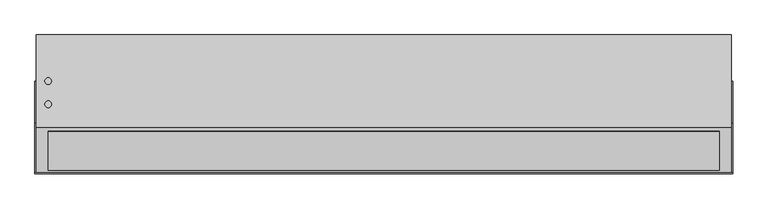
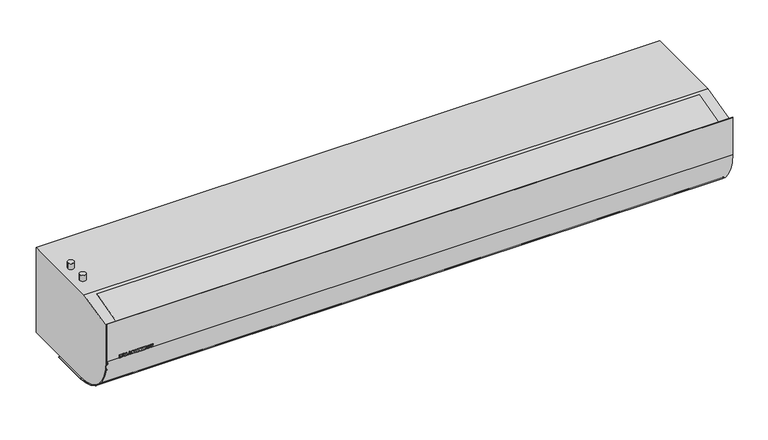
"""IFC4 building model written with IfcOpenShell, lengths in millimetres: proxy geometry, ИЗТТ_Завеса_Водяная : KVC-D20W50-11."""

from ifc_helpers import new_model, si_unit, point, frame, frame_2d, origin, place, context, project, spatial, polyline, circle_curve, trimmed, segment, composite_curve, outline, extrude, source, transform, mapped, element, save
from ifc_brep_helpers import plane_surface, cylinder_surface, advanced_brep


def mechanical_equipment_50f86838(model_context):
    return source(origin(), model_context, "Body", "SolidModel", [
        extrude(outline(polyline([(162.0, -1006.5196078), (152.0, -1006.5196078), (152.0, -1003.3823529), (153.7647059, -1003.3823529), (155.7745098, -1001.6115196), (152.0, -999.7794118), (152.0, -995.9313725), (158.2775735, -999.4056373), (162.0, -996.127451), (162.0, -1000.3982843), (158.2224265, -1003.3823529), (162.0, -1003.3823529), (162.0, -1006.5196078)])), frame((0.0, -417.0, 0.0), z_axis=(0.0, 1.0, 0.0), x_axis=(0.0, 0.0, 1.0)), (0.0, 0.0, 1.0), 1.0),
        extrude(outline(polyline([(153.5686275, -988.9338235), (152.0, -988.4803922), (152.0, -985.1470588), (162.0, -988.5202206), (162.0, -992.5582108), (152.0, -995.9313725), (152.0, -992.5980392), (153.5686275, -992.1660539), (153.5686275, -988.9338235)]), holes=[polyline([(155.9215686, -989.5281863), (155.9215686, -991.5165441), (159.4540441, -990.5392157), (155.9215686, -989.5281863)])]), frame((0.0, -417.0, 0.0), z_axis=(0.0, 1.0, 0.0), x_axis=(0.0, 0.0, 1.0)), (0.0, 0.0, 1.0), 1.0),
        extrude(outline(polyline([(162.0, -984.1666667), (152.0, -984.1666667), (152.0, -976.3235294), (154.3529412, -976.3235294), (154.3529412, -981.0294118), (162.0, -981.0294118), (162.0, -984.1666667)])), frame((0.0, -417.0, 0.0), z_axis=(0.0, 1.0, 0.0), x_axis=(0.0, 0.0, 1.0)), (0.0, 0.0, 1.0), 1.0),
        extrude(outline(polyline([(153.5686275, -968.9338235), (152.0, -968.4803922), (152.0, -965.1470588), (162.0, -968.5202206), (162.0, -972.5582108), (152.0, -975.9313725), (152.0, -972.5980392), (153.5686275, -972.1660539), (153.5686275, -968.9338235)]), holes=[polyline([(155.9215686, -969.5281863), (155.9215686, -971.5165441), (159.4540441, -970.5392157), (155.9215686, -969.5281863)])]), frame((0.0, -417.0, 0.0), z_axis=(0.0, 1.0, 0.0), x_axis=(0.0, 0.0, 1.0)), (0.0, 0.0, 1.0), 1.0),
        extrude(outline(polyline([(155.3394608, -964.754902), (152.8026961, -963.6488971), (151.8039216, -960.1378676), (152.2297794, -957.7420343), (153.4813113, -956.2637868), (155.28125, -955.7352941), (156.7870711, -956.1305147), (157.9129902, -957.3958333), (158.8106618, -960.2757353), (160.4313725, -960.4074755), (160.1050858, -959.6338848), (159.0588235, -959.2647059), (159.2395833, -956.127451), (161.4883578, -957.3054534), (162.1960784, -960.1807598), (161.8039216, -962.6011029), (160.7285539, -963.9231005), (159.276348, -964.3627451), (157.3492647, -963.4957108), (156.1237745, -960.6219363), (154.8186275, -958.872549), (154.0818015, -959.1865809), (153.7647059, -960.0796569), (154.3958333, -961.2775735), (155.5294118, -961.6176471), (155.3394608, -964.754902)])), frame((0.0, -417.0, 0.0), z_axis=(0.0, 1.0, 0.0), x_axis=(0.0, 0.0, 1.0)), (0.0, 0.0, 1.0), 1.0),
        extrude(outline(polyline([(162.0, -954.1666667), (152.0, -954.1666667), (152.0, -951.0294118), (156.1176471, -951.0294118), (156.1176471, -947.6960784), (152.0, -947.6960784), (152.0, -944.5588235), (162.0, -944.5588235), (162.0, -947.6960784), (158.4705882, -947.6960784), (158.4705882, -951.0294118), (162.0, -951.0294118), (162.0, -954.1666667)])), frame((0.0, -417.0, 0.0), z_axis=(0.0, 1.0, 0.0), x_axis=(0.0, 0.0, 1.0)), (0.0, 0.0, 1.0), 1.0),
        extrude(outline(polyline([(162.0, -942.5980392), (152.0, -942.5980392), (152.0, -939.6568627), (157.4901961, -939.6568627), (152.0, -935.9313725), (152.0, -932.9901961), (162.0, -932.9901961), (162.0, -935.9313725), (156.4730392, -935.9313725), (162.0, -939.6783088), (162.0, -942.5980392)])), frame((0.0, -417.0, 0.0), z_axis=(0.0, 1.0, 0.0), x_axis=(0.0, 0.0, 1.0)), (0.0, 0.0, 1.0), 1.0),
        extrude(outline(polyline([(-927.6960784, -417.0), (-930.8333333, -417.0), (-930.8333333, -416.0), (-927.6960784, -416.0), (-927.6960784, -417.0)])), frame((0.0, 0.0, 152.0), z_axis=(0.0, 0.0, 1.0), x_axis=(1.0, 0.0, 0.0)), (0.0, 0.0, 1.0), 10.0),
        extrude(outline(polyline([(162.0, -925.5392157), (152.0, -925.5392157), (152.0, -922.4019608), (153.7647059, -922.4019608), (155.7745098, -920.6311275), (152.0, -918.7990196), (152.0, -914.9509804), (158.2775735, -918.4252451), (162.0, -915.1470588), (162.0, -919.4178922), (158.2224265, -922.4019608), (162.0, -922.4019608), (162.0, -925.5392157)])), frame((0.0, -417.0, 0.0), z_axis=(0.0, 1.0, 0.0), x_axis=(0.0, 0.0, 1.0)), (0.0, 0.0, 1.0), 1.0),
        extrude(outline(polyline([(156.9938725, -914.3627451), (154.0603554, -913.671875), (152.346201, -911.8688725), (151.8039216, -909.0594363), (152.4304534, -906.2729779), (154.1859681, -904.5618873), (157.0765931, -903.9705882), (160.8495711, -905.3247549), (162.1960784, -909.185049), (160.8250613, -912.9947917), (156.9938725, -914.3627451)]), holes=[polyline([(156.9938725, -911.2254902), (159.1813725, -910.6678922), (159.8431373, -909.1911765), (159.1920956, -907.6685049), (157.1286765, -907.1078431), (154.8048407, -907.645527), (154.1568627, -909.1636029), (154.8186275, -910.6709559), (156.9938725, -911.2254902)])]), frame((0.0, -417.0, 0.0), z_axis=(0.0, 1.0, 0.0), x_axis=(0.0, 0.0, 1.0)), (0.0, 0.0, 1.0), 1.0),
        extrude(outline(polyline([(162.0, -903.1862745), (152.0, -899.4699755), (152.0, -896.1397059), (162.0, -892.4019608), (162.0, -895.7352941), (154.8033088, -897.7941176), (162.0, -899.8560049), (162.0, -903.1862745)])), frame((0.0, -417.0, 0.0), z_axis=(0.0, 1.0, 0.0), x_axis=(0.0, 0.0, 1.0)), (0.0, 0.0, 1.0), 1.0),
        extrude(outline(polyline([(-26.4444444, 10.0), (-26.4444444, 0.0), (-48.8888889, 10.0), (-48.8888889, 0.0), (-71.3333333, 10.0), (-71.3333333, 0.0), (-93.7777778, 10.0), (-93.7777778, 0.0), (-116.2222222, 10.0), (-116.2222222, 0.0), (-138.5833165, 10.5360909), (-4.0, 10.5360909), (-4.0, 0.0), (-26.4444444, 10.0)])), frame((-1007.5, 0.0, 0.0), z_axis=(1.0, 0.0, 0.0), x_axis=(0.0, 1.0, 0.0)), (0.0, 0.0, 1.0), 2015.0),
        advanced_brep(
        [(1043.5, -277.3333333, 304.0), (1043.5, -414.0, 269.0), (1043.5, -414.0, 152.0), (1043.5, -264.0, 2.0), (1043.5, 0.0, 2.0), (1043.5, 0.0, 304.0), (-1043.5, -277.3333333, 304.0), (-1043.5, 0.0, 304.0), (-1043.5, 0.0, 2.0), (-1043.5, -264.0, 2.0), (-1043.5, -414.0, 152.0), (-1043.5, -414.0, 269.0), (-997.5, -208.0, 304.0), (-1017.5, -208.0, 304.0), (-997.5, -138.6666667, 304.0), (-1017.5, -138.6666667, 304.0), (1007.5, -4.0, 2.0), (-1007.5, -4.0, 2.0), (-1007.5, -138.6666667, 2.0), (1007.5, -138.6666667, 2.0), (1007.5, -4.0, 10.0), (1007.5, -138.6666667, 10.0), (-1007.5, -138.6666667, 10.0), (-1007.5, -4.0, 10.0), (-1017.5, -208.0, 324.0), (-997.5, -208.0, 324.0), (-1017.5, -138.6666667, 324.0), (-997.5, -138.6666667, 324.0)],
        [
            (0, 1),
            (1, 2),
            (2, 3, circle_curve(frame((1043.5, -264.0, 152.0), z_axis=(1.0, 0.0, 0.0), x_axis=(0.0, 1.0, 0.0)), 150.0)),
            (3, 4),
            (4, 5),
            (5, 0),
            (6, 7),
            (7, 8),
            (8, 9),
            (9, 10, circle_curve(frame((-1043.5, -264.0, 152.0), z_axis=(-1.0, 0.0, 0.0), x_axis=(0.0, 1.0, 0.0)), 150.0)),
            (10, 11),
            (11, 6),
            (1, 11),
            (10, 2),
            (4, 8),
            (7, 5),
            (6, 0),
            (12, 13, circle_curve(frame((-1007.5, -208.0, 304.0), z_axis=(0.0, 0.0, -1.0), x_axis=(1.0, 0.0, 0.0)), 10.0)),
            (13, 12, circle_curve(frame((-1007.5, -208.0, 304.0), z_axis=(0.0, 0.0, -1.0), x_axis=(1.0, 0.0, 0.0)), 10.0)),
            (14, 15, circle_curve(frame((-1007.5, -138.6666667, 304.0), z_axis=(0.0, 0.0, -1.0), x_axis=(1.0, 0.0, 0.0)), 10.0)),
            (15, 14, circle_curve(frame((-1007.5, -138.6666667, 304.0), z_axis=(0.0, 0.0, -1.0), x_axis=(1.0, 0.0, 0.0)), 10.0)),
            (9, 3),
            (16, 17),
            (17, 18),
            (18, 19),
            (19, 16),
            (20, 21),
            (21, 22),
            (22, 23),
            (23, 20),
            (23, 17),
            (16, 20),
            (22, 18),
            (21, 19),
            (24, 25, circle_curve(frame((-1007.5, -208.0, 324.0), z_axis=(0.0, 0.0, 1.0), x_axis=(1.0, 0.0, 0.0)), 10.0)),
            (25, 24, circle_curve(frame((-1007.5, -208.0, 324.0), z_axis=(0.0, 0.0, 1.0), x_axis=(1.0, 0.0, 0.0)), 10.0)),
            (26, 27, circle_curve(frame((-1007.5, -138.6666667, 324.0), z_axis=(0.0, 0.0, 1.0), x_axis=(1.0, 0.0, 0.0)), 10.0)),
            (27, 26, circle_curve(frame((-1007.5, -138.6666667, 324.0), z_axis=(0.0, 0.0, 1.0), x_axis=(1.0, 0.0, 0.0)), 10.0)),
            (24, 13),
            (12, 25),
            (26, 15),
            (14, 27),
        ],
        [
            plane_surface(frame((1043.5, -277.3333333, 304.0), z_axis=(1.0, 0.0, 0.0), x_axis=(0.0, -0.9687367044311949, -0.24809110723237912))),
            plane_surface(frame((-1043.5, -277.3333333, 304.0), z_axis=(-1.0, 0.0, 0.0), x_axis=(0.0, 0.9687367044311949, 0.24809110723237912))),
            plane_surface(frame((1043.5, -414.0, 269.0), z_axis=(0.0, -1.0, 0.0), x_axis=(-1.0, 0.0, 0.0))),
            plane_surface(frame((1043.5, 0.0, 2.0), z_axis=(0.0, 1.0, 0.0), x_axis=(-1.0, 0.0, 0.0))),
            plane_surface(frame((1043.5, 0.0, 304.0), z_axis=(0.0, 0.0, 1.0), x_axis=(-1.0, 0.0, 0.0))),
            cylinder_surface(frame((-1043.5, -264.0, 152.0), z_axis=(1.0, 0.0, 0.0), x_axis=(0.0, 1.0, 0.0)), 150.0),
            plane_surface(frame((1043.5, -264.0, 2.0), z_axis=(0.0, 0.0, -1.0), x_axis=(-1.0, 0.0, 0.0))),
            plane_surface(frame((1043.5, -277.3333333, 304.0), z_axis=(0.0, -0.24809110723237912, 0.9687367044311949), x_axis=(-1.0, 0.0, 0.0))),
            plane_surface(frame((-1007.5, -4.0, 10.0), z_axis=(0.0, 0.0, -1.0), x_axis=(-1.0, 0.0, 0.0))),
            plane_surface(frame((1007.5, -4.0, 10.0), z_axis=(0.0, -1.0, 0.0), x_axis=(0.0, 0.0, -1.0))),
            plane_surface(frame((-1007.5, -4.0, 10.0), z_axis=(1.0, 0.0, 0.0), x_axis=(0.0, 0.0, -1.0))),
            plane_surface(frame((-1007.5, -138.6666667, 10.0), z_axis=(0.0, 1.0, 0.0), x_axis=(0.0, 0.0, -1.0))),
            plane_surface(frame((1007.5, -138.6666667, 10.0), z_axis=(-1.0, 0.0, 0.0), x_axis=(0.0, 0.0, -1.0))),
            plane_surface(frame((-997.5, -208.0, 324.0), z_axis=(0.0, 0.0, 1.0), x_axis=(0.0, 1.0, 0.0))),
            cylinder_surface(frame((-1007.5, -208.0, 304.0), z_axis=(0.0, 0.0, 1.0), x_axis=(1.0, 0.0, 0.0)), 10.0),
            cylinder_surface(frame((-1007.5, -138.6666667, 0.0), z_axis=(0.0, 0.0, 1.0), x_axis=(1.0, 0.0, 0.0)), 10.0),
        ],
        [
            (0, [[1, 2, 3, 4, 5, 6]]),
            (1, [[7, 8, 9, 10, 11, 12]]),
            (2, [[-2, 13, -11, 14]]),
            (3, [[-5, 15, -8, 16]]),
            (4, [[-6, -16, -7, 17], [18, 19], [20, 21]]),
            (5, [[-3, -14, -10, 22]]),
            (6, [[-4, -22, -9, -15], [23, 24, 25, 26]]),
            (7, [[-1, -17, -12, -13]]),
            (8, [[27, 28, 29, 30]]),
            (9, [[-30, 31, -23, 32]]),
            (10, [[-29, 33, -24, -31]]),
            (11, [[-28, 34, -25, -33]]),
            (12, [[-27, -32, -26, -34]]),
            (13, [[35, 36]]),
            (13, [[37, 38]]),
            (14, [[-35, 39, -18, 40]]),
            (14, [[-36, -40, -19, -39]]),
            (15, [[-37, 41, -20, 42]]),
            (15, [[-38, -42, -21, -41]]),
        ],
    ),
        extrude(outline(polyline([(0.0, -120.8057216), (0.0, 0.0), (2015.0, 0.0), (2015.0, -120.8057216), (0.0, -120.8057216)])), frame((1007.5, -405.390912, 270.2995374), z_axis=(0.0, -0.24809110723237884, 0.9687367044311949), x_axis=(-1.0, 0.0, 0.0)), (0.0, 0.0, 1.0), 1.7538572),
        extrude(outline(composite_curve([segment(polyline([(-416.0, 284.0), (-414.0, 284.0), (-414.0, 152.0)]), True, "CONTINUOUS"), segment(trimmed(circle_curve(frame_2d((-264.0, 152.0)), 150.0), [point((-414.0, 152.0))], [point((-264.0, 2.0))], True, "CARTESIAN"), True, "CONTINUOUS"), segment(polyline([(-264.0, 2.0), (-138.6666667, 2.0), (-138.6666667, 0.0), (-264.0, 0.0)]), True, "CONTINUOUS"), segment(trimmed(circle_curve(frame_2d((-264.0, 152.0)), 152.0), [point((-264.0, 0.0))], [point((-416.0, 152.0))], False, "CARTESIAN"), True, "CONTINUOUS"), segment(polyline([(-416.0, 152.0), (-416.0, 284.0)]), True, "CONTINUOUS")], self_intersect=False)), frame((-1047.5, 0.0, 0.0), z_axis=(1.0, 0.0, 0.0), x_axis=(0.0, 1.0, 0.0)), (0.0, 0.0, 1.0), 2095.0),
    ])


if __name__ == "__main__":
    model = new_model("IFC4")
    model_context = context("Model", 3, world=origin())
    ifc_project = project(units=[si_unit("LENGTHUNIT", "METRE", prefix="MILLI")], contexts=[model_context])
    site = spatial("IfcSite", under=ifc_project)
    building = spatial("IfcBuilding", under=site)
    placement = place(None, origin())
    mechanical_equipment_shape = mechanical_equipment_50f86838(model_context)
    element("IfcBuildingElementProxy", 1, Name="ИЗТТ_Завеса_Водяная : KVC-D20W50-11", ObjectType="ИЗТТ_Завеса_Водяная : KVC-D20W50-11", at=placement, inside=building, context=model_context, shape_type="MappedRepresentation", body=[
        mapped(mechanical_equipment_shape, transform((0.0, 0.0, 0.0), x_axis=(1.0, 0.0, 0.0), y_axis=(0.0, 1.0, 0.0), z_axis=(0.0, 0.0, 1.0))),
    ])
    save(model, "model.ifc")
